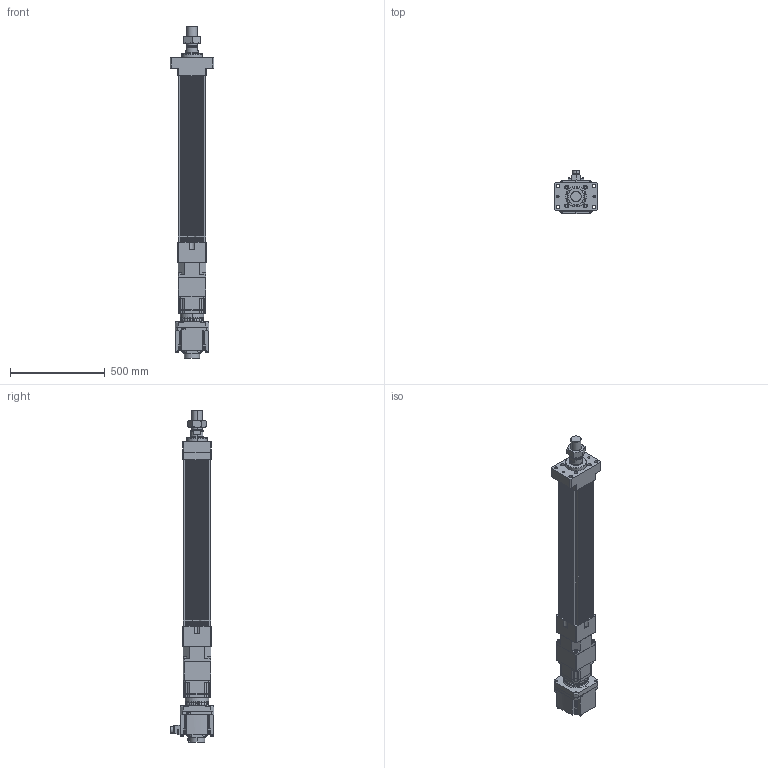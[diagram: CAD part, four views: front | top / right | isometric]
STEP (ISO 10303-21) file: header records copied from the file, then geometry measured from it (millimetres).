
FILE_DESCRIPTION (( 'STEP AP203' ), '1' );
FILE_NAME ('HES150NS(HS)-S600-W035G00-M-FM.STEP', '2023-02-01T04:47:03', ( 'tms' ), ( '' ), 'SwSTEP 2.0', 'SolidWorks 2013', '' );
FILE_SCHEMA (( 'CONFIG_CONTROL_DESIGN' ));
Length unit declared in the file: millimetre
Products named in the file (9): AB142-003[HG-SR352]; P0403500801; HES150NS(HS)-S600-W035G00-M-FM; HG-SR352; M56X2.0P; HES150 ROD M ST600; AB1421; HES150-S600-G142-FM; P1301500001
Assembly tree (8 placements, depth 3):
  HES150NS(HS)-S600-W035G00-M-FM
    HES150-S600-G142-FM
    HES150 ROD M ST600
    M56X2.0P
    AB142-003[HG-SR352]
      AB1421
      P1301500001
      P0403500801
    HG-SR352
Bounding box: 230 x 228.85 x 1747.5 mm (x, y, z)
Volume: 19899910.7 mm3; surface area: 2182575.1 mm2
Topology: 5 solids, 23 shells, 1508 faces, 3908 edges, 2538 vertices
Faces by surface type: cylinder 687, plane 587, cone 152, bspline 76, torus 6
Entity records: 55082 total; most frequent: CARTESIAN_POINT 16753, DIRECTION 8014, ORIENTED_EDGE 7718, EDGE_CURVE 3881, AXIS2_PLACEMENT_3D 3024, VERTEX_POINT 2538, LINE 1966, VECTOR 1966
